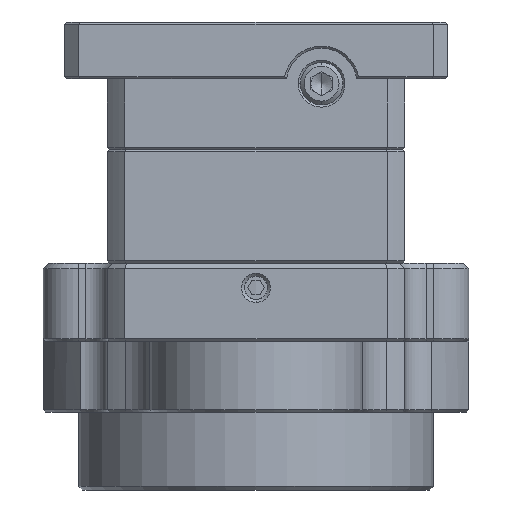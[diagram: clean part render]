
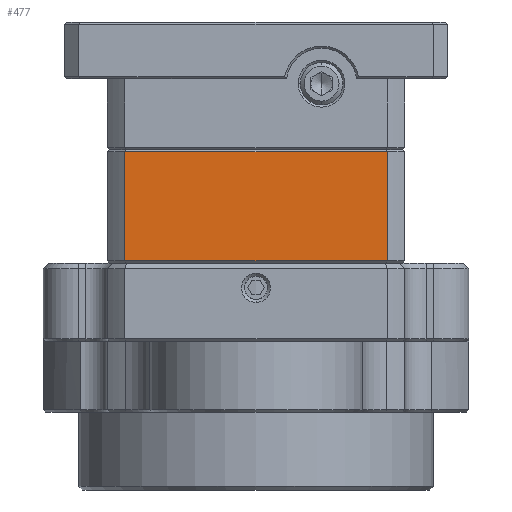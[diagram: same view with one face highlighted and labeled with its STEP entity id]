
A CAD part, front view. The second image highlights one B-rep face of the part: STEP entity #477.
In plain terms, the highlighted planar face has unit normal (0, -1, 0).
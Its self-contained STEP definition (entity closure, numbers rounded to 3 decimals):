
#477 = ADVANCED_FACE ( 'NONE', ( #25970 ), #26008, .T. ) ;
#869 = AXIS2_PLACEMENT_3D ( 'NONE', #26036, #25973, #26011 ) ;
#980 = VECTOR ( 'NONE', #2371, 1000. ) ;
#1053 = VECTOR ( 'NONE', #1552, 1000. ) ;
#1079 = VECTOR ( 'NONE', #2590, 1000. ) ;
#1114 = VECTOR ( 'NONE', #14644, 1000. ) ;
#1552 = DIRECTION ( 'NONE',  ( 0., 0., 1. ) ) ;
#1565 = CARTESIAN_POINT ( 'NONE',  ( 18.52, -53., 16. ) ) ;
#1584 = LINE ( 'NONE', #1565, #1053 ) ;
#2348 = LINE ( 'NONE', #2366, #980 ) ;
#2366 = CARTESIAN_POINT ( 'NONE',  ( 18.063, -53., 0.3 ) ) ;
#2371 = DIRECTION ( 'NONE',  ( 1., 0., 0. ) ) ;
#2590 = DIRECTION ( 'NONE',  ( 0., 0., -1. ) ) ;
#2602 = LINE ( 'NONE', #2603, #1079 ) ;
#2603 = CARTESIAN_POINT ( 'NONE',  ( -18.52, -53., 16. ) ) ;
#2737 = VERTEX_POINT ( 'NONE', #12435 ) ;
#2744 = VERTEX_POINT ( 'NONE', #12438 ) ;
#2749 = VERTEX_POINT ( 'NONE', #12442 ) ;
#2784 = VERTEX_POINT ( 'NONE', #12463 ) ;
#3380 = ORIENTED_EDGE ( 'NONE', *, *, #11493, .T. ) ;
#3403 = ORIENTED_EDGE ( 'NONE', *, *, #11421, .T. ) ;
#3412 = ORIENTED_EDGE ( 'NONE', *, *, #11462, .T. ) ;
#3416 = ORIENTED_EDGE ( 'NONE', *, *, #11467, .T. ) ;
#11421 = EDGE_CURVE ( 'NONE', #2784, #2749, #2348, .T. ) ;
#11462 = EDGE_CURVE ( 'NONE', #2737, #2784, #2602, .T. ) ;
#11467 = EDGE_CURVE ( 'NONE', #2749, #2744, #1584, .T. ) ;
#11493 = EDGE_CURVE ( 'NONE', #2744, #2737, #14651, .T. ) ;
#12435 = CARTESIAN_POINT ( 'NONE',  ( -18.52, -53., 15.7 ) ) ;
#12438 = CARTESIAN_POINT ( 'NONE',  ( 18.52, -53., 15.7 ) ) ;
#12442 = CARTESIAN_POINT ( 'NONE',  ( 18.52, -53., 0.3 ) ) ;
#12463 = CARTESIAN_POINT ( 'NONE',  ( -18.52, -53., 0.3 ) ) ;
#14620 = CARTESIAN_POINT ( 'NONE',  ( -18.063, -53., 15.7 ) ) ;
#14644 = DIRECTION ( 'NONE',  ( -1., 0., 0. ) ) ;
#14651 = LINE ( 'NONE', #14620, #1114 ) ;
#20535 = EDGE_LOOP ( 'NONE', ( #3416, #3380, #3412, #3403 ) ) ;
#25970 = FACE_OUTER_BOUND ( 'NONE', #20535, .T. ) ;
#25973 = DIRECTION ( 'NONE',  ( 0., -1., 0. ) ) ;
#26008 = PLANE ( 'NONE',  #869 ) ;
#26011 = DIRECTION ( 'NONE',  ( -1., 0., 0. ) ) ;
#26036 = CARTESIAN_POINT ( 'NONE',  ( 21., -53., 16. ) ) ;
